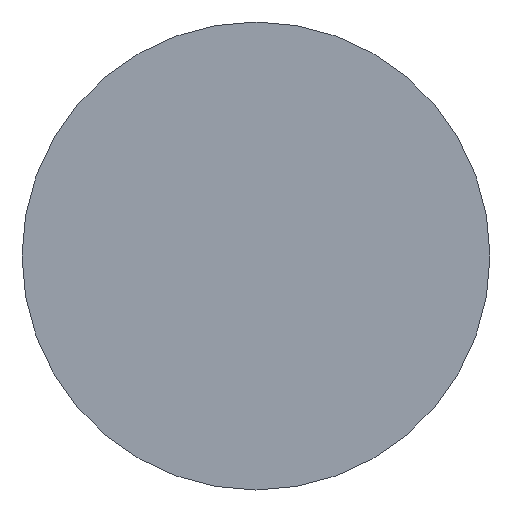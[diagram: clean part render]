
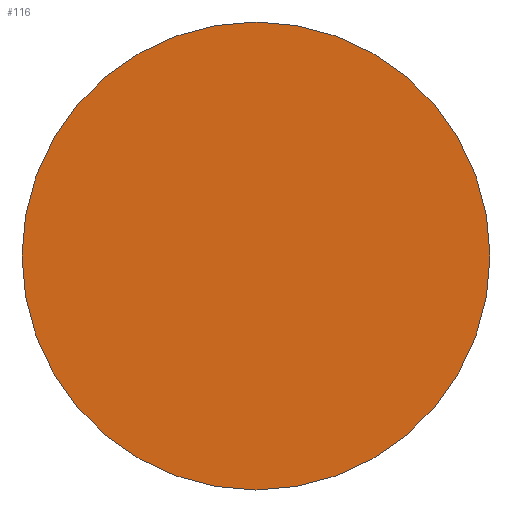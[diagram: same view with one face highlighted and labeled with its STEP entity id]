
A CAD part, left-side view. The second image highlights one B-rep face of the part: STEP entity #116.
In plain terms, the highlighted planar face has unit normal (-1, 0, 0).
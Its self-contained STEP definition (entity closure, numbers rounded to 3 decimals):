
#14 = ORIENTED_EDGE ( 'NONE', *, *, #119, .T. ) ;
#16 = CIRCLE ( 'NONE', #120, 5.5 ) ;
#20 = EDGE_LOOP ( 'NONE', ( #14, #30 ) ) ;
#30 = ORIENTED_EDGE ( 'NONE', *, *, #127, .T. ) ;
#35 = FACE_OUTER_BOUND ( 'NONE', #20, .T. ) ;
#41 = CIRCLE ( 'NONE', #128, 5.5 ) ;
#71 = DIRECTION ( 'NONE',  ( 0., 0., 1. ) ) ;
#73 = DIRECTION ( 'NONE',  ( -1., 0., 0. ) ) ;
#74 = CARTESIAN_POINT ( 'NONE',  ( -220., 0., 0. ) ) ;
#84 = DIRECTION ( 'NONE',  ( 0., 0., 1. ) ) ;
#85 = DIRECTION ( 'NONE',  ( -1., 0., 0. ) ) ;
#86 = CARTESIAN_POINT ( 'NONE',  ( -220., 0., 0. ) ) ;
#87 = DIRECTION ( 'NONE',  ( 0., 0., 1. ) ) ;
#88 = DIRECTION ( 'NONE',  ( -1., 0., 0. ) ) ;
#90 = PLANE ( 'NONE',  #132 ) ;
#91 = CARTESIAN_POINT ( 'NONE',  ( -220., 0., 0. ) ) ;
#96 = VERTEX_POINT ( 'NONE', #111 ) ;
#99 = VERTEX_POINT ( 'NONE', #106 ) ;
#106 = CARTESIAN_POINT ( 'NONE',  ( -220., 0., 5.5 ) ) ;
#111 = CARTESIAN_POINT ( 'NONE',  ( -220., 0., -5.5 ) ) ;
#116 = ADVANCED_FACE ( 'NONE', ( #35 ), #90, .T. ) ;
#119 = EDGE_CURVE ( 'NONE', #99, #96, #41, .T. ) ;
#120 = AXIS2_PLACEMENT_3D ( 'NONE', #74, #73, #71 ) ;
#127 = EDGE_CURVE ( 'NONE', #96, #99, #16, .T. ) ;
#128 = AXIS2_PLACEMENT_3D ( 'NONE', #86, #85, #84 ) ;
#132 = AXIS2_PLACEMENT_3D ( 'NONE', #91, #88, #87 ) ;
